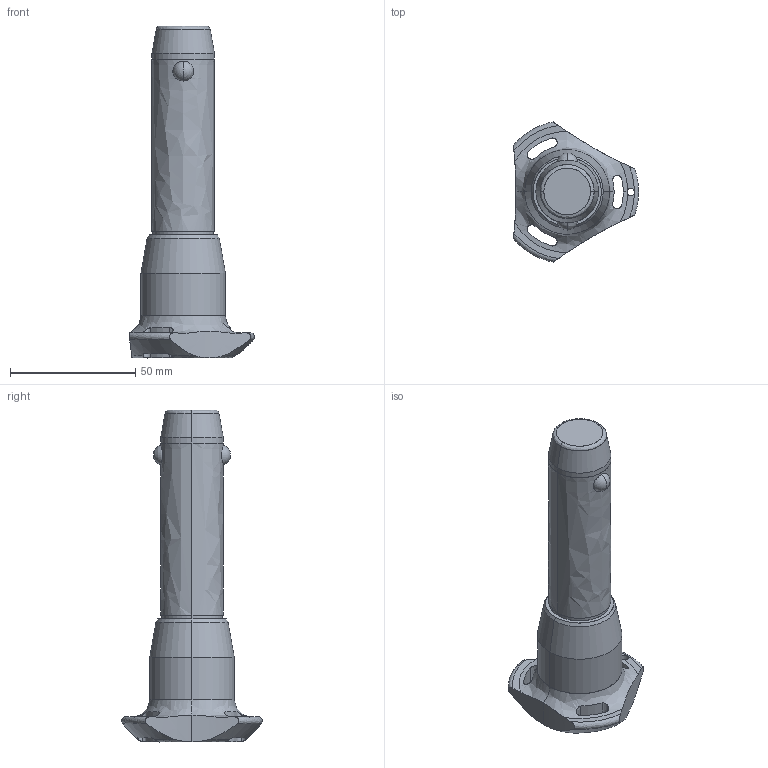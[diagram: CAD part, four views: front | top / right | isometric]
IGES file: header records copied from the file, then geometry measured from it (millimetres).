
Start section: SolidWorks IGES file using analytic representation for surfaces
Global section: file name: C:\Users\ianosborn\Desktop\QR1716_v2\QR1716_v2_20251114_IGES\QR1716.M25-060-T.igs; native system: SolidWorks 2019; preprocessor: SolidWorks 2019; author: IanOsborn; date: 251113.104547; units: millimetre
Bounding box: 50.04 x 56.02 x 132.7 mm (x, y, z)
Surface area: 16162.2 mm2 (no closed solid volume)
Topology: 0 solids, 0 shells, 68 faces, 1382 edges, 1378 vertices
Faces by surface type: revolution 52, bspline 16
